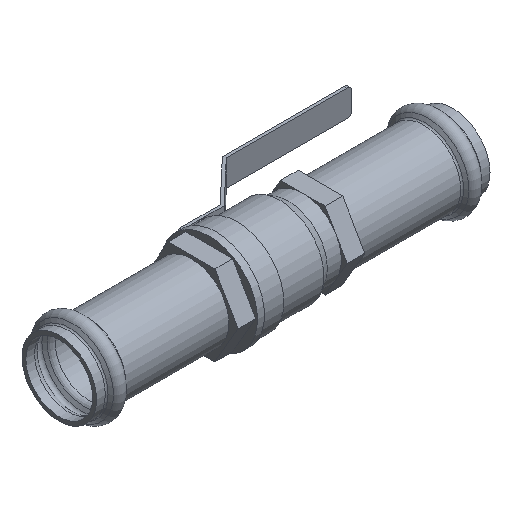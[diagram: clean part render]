
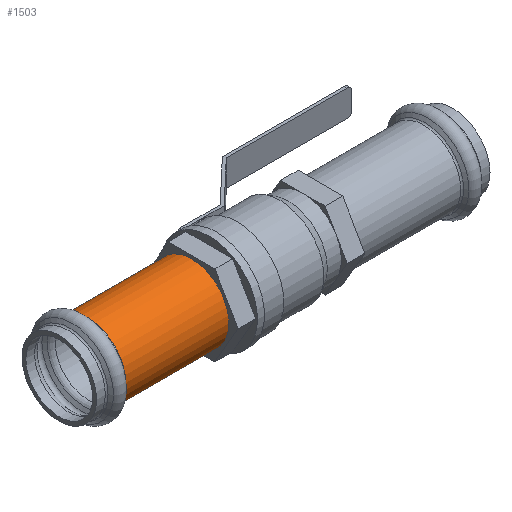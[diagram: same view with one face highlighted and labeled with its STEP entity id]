
A CAD part, isometric view. The second image highlights one B-rep face of the part: STEP entity #1503.
In plain terms, the highlighted cylindrical face has radius 26.899 mm (diameter 53.797 mm), a full revolution.
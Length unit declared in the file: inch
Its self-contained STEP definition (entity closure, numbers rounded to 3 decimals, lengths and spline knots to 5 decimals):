
#96=CYLINDRICAL_SURFACE('',#1689,1.059);
#120=LINE('',#2516,#211);
#211=VECTOR('',#2042,1.059);
#325=FACE_OUTER_BOUND('',#399,.T.);
#399=EDGE_LOOP('',(#1155,#1156,#1157,#1158,#1159,#1160,#1161));
#542=CIRCLE('',#1686,1.059);
#543=CIRCLE('',#1687,1.059);
#544=CIRCLE('',#1688,1.059);
#545=CIRCLE('',#1690,1.059);
#546=CIRCLE('',#1691,1.059);
#656=VERTEX_POINT('',#2504);
#657=VERTEX_POINT('',#2506);
#658=VERTEX_POINT('',#2508);
#659=VERTEX_POINT('',#2512);
#660=VERTEX_POINT('',#2513);
#837=EDGE_CURVE('',#657,#656,#542,.T.);
#838=EDGE_CURVE('',#658,#657,#543,.T.);
#839=EDGE_CURVE('',#656,#658,#544,.T.);
#840=EDGE_CURVE('',#659,#660,#545,.T.);
#841=EDGE_CURVE('',#660,#659,#546,.T.);
#842=EDGE_CURVE('',#660,#658,#120,.T.);
#1155=ORIENTED_EDGE('',*,*,#840,.F.);
#1156=ORIENTED_EDGE('',*,*,#841,.F.);
#1157=ORIENTED_EDGE('',*,*,#842,.T.);
#1158=ORIENTED_EDGE('',*,*,#838,.T.);
#1159=ORIENTED_EDGE('',*,*,#837,.T.);
#1160=ORIENTED_EDGE('',*,*,#839,.T.);
#1161=ORIENTED_EDGE('',*,*,#842,.F.);
#1503=ADVANCED_FACE('',(#325),#96,.T.);
#1686=AXIS2_PLACEMENT_3D('',#2507,#2030,#2031);
#1687=AXIS2_PLACEMENT_3D('',#2509,#2032,#2033);
#1688=AXIS2_PLACEMENT_3D('',#2510,#2034,#2035);
#1689=AXIS2_PLACEMENT_3D('',#2511,#2036,#2037);
#1690=AXIS2_PLACEMENT_3D('',#2514,#2038,#2039);
#1691=AXIS2_PLACEMENT_3D('',#2515,#2040,#2041);
#2030=DIRECTION('center_axis',(1.,0.,0.));
#2031=DIRECTION('ref_axis',(0.,0.,-1.));
#2032=DIRECTION('center_axis',(1.,0.,0.));
#2033=DIRECTION('ref_axis',(0.,0.,-1.));
#2034=DIRECTION('center_axis',(1.,0.,0.));
#2035=DIRECTION('ref_axis',(0.,0.,-1.));
#2036=DIRECTION('center_axis',(1.,0.,0.));
#2037=DIRECTION('ref_axis',(0.,1.,0.));
#2038=DIRECTION('center_axis',(1.,0.,0.));
#2039=DIRECTION('ref_axis',(0.,1.,0.));
#2040=DIRECTION('center_axis',(1.,0.,0.));
#2041=DIRECTION('ref_axis',(0.,1.,0.));
#2042=DIRECTION('',(-1.,0.,0.));
#2504=CARTESIAN_POINT('',(-4.75918,0.,1.059));
#2506=CARTESIAN_POINT('',(-4.75918,1.059,0.));
#2507=CARTESIAN_POINT('Origin',(-4.75918,0.,0.));
#2508=CARTESIAN_POINT('',(-4.75918,-1.059,0.));
#2509=CARTESIAN_POINT('Origin',(-4.75918,0.,0.));
#2510=CARTESIAN_POINT('Origin',(-4.75918,0.,0.));
#2511=CARTESIAN_POINT('Origin',(-3.29459,0.,
0.));
#2512=CARTESIAN_POINT('',(-1.83,1.059,0.));
#2513=CARTESIAN_POINT('',(-1.83,-1.059,0.));
#2514=CARTESIAN_POINT('Origin',(-1.83,0.,0.));
#2515=CARTESIAN_POINT('Origin',(-1.83,0.,0.));
#2516=CARTESIAN_POINT('',(-3.29459,-1.059,0.));
